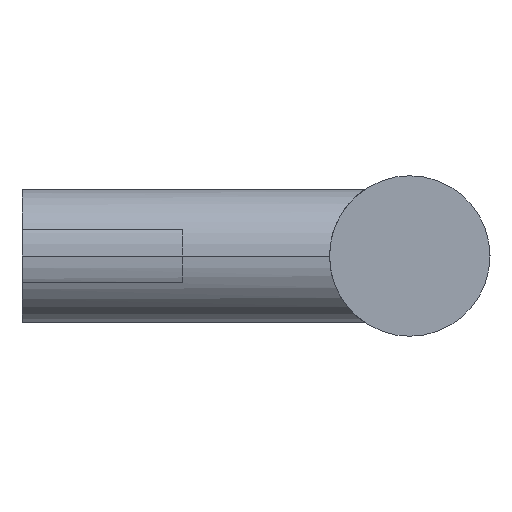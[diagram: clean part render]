
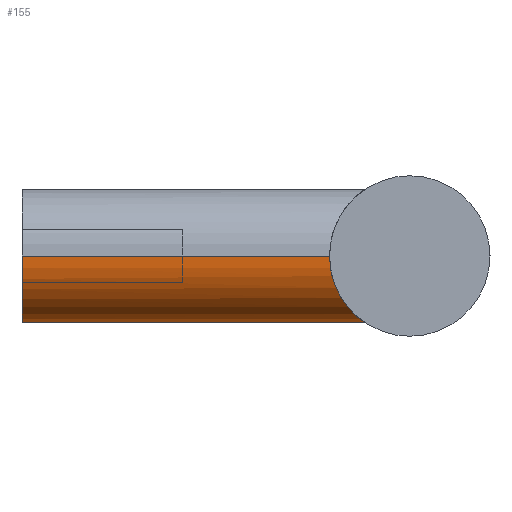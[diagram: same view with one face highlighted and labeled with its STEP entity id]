
A CAD part, left-side view. The second image highlights one B-rep face of the part: STEP entity #155.
In plain terms, the highlighted cylindrical face has radius 5 mm (diameter 10 mm), a partial arc.
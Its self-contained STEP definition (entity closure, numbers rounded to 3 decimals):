
#143 = VERTEX_POINT( '', #361 );
#155 = ADVANCED_FACE( '', ( #375 ), #376, .T. );
#163 = VERTEX_POINT( '', #384 );
#183 = VERTEX_POINT( '', #407 );
#191 = VERTEX_POINT( '', #415 );
#193 = EDGE_CURVE( '', #183, #191, #417, .T. );
#201 = EDGE_CURVE( '', #143, #163, #427, .T. );
#275 = EDGE_CURVE( '', #143, #191, #507, .T. );
#287 = EDGE_CURVE( '', #183, #163, #519, .T. );
#361 = CARTESIAN_POINT( '', ( 5., 0., 0. ) );
#375 = FACE_OUTER_BOUND( '', #648, .T. );
#376 = CYLINDRICAL_SURFACE( '', #649, 5. );
#384 = CARTESIAN_POINT( '', ( 5., -23., 0. ) );
#407 = CARTESIAN_POINT( '', ( -5., -23., 0. ) );
#415 = CARTESIAN_POINT( '', ( -5., 0., 0. ) );
#417 = LINE( '', #720, #721 );
#427 = LINE( '', #734, #735 );
#507 = CIRCLE( '', #957, 5. );
#519 = B_SPLINE_CURVE_WITH_KNOTS( '', 3, ( #971, #972, #973, #974, #975, #976, #977, #978, #979, #980, #981, #982, #983, #984, #985, #986, #987, #988, #989, #990, #991, #992, #993, #994, #995, #996, #997, #998, #999, #1000, #1001, #1002, #1003, #1004 ), .UNSPECIFIED., .F., .F., ( 4, 2, 2, 2, 2, 2, 2, 2, 2, 2, 2, 2, 2, 2, 2, 2, 4 ), ( 8.161, 9.16, 10.159, 11.158, 12.157, 13.198, 14.239, 15.28, 16.322, 17.363, 18.404, 19.446, 20.487, 21.486, 22.485, 23.484, 24.483 ), .UNSPECIFIED. );
#648 = EDGE_LOOP( '', ( #1102, #1103, #1104, #1105 ) );
#649 = AXIS2_PLACEMENT_3D( '', #1106, #1107, #1108 );
#720 = CARTESIAN_POINT( '', ( -5., 0., 0. ) );
#721 = VECTOR( '', #1152, 1. );
#734 = CARTESIAN_POINT( '', ( 5., 0., 0. ) );
#735 = VECTOR( '', #1170, 1. );
#957 = AXIS2_PLACEMENT_3D( '', #1230, #1231, #1232 );
#971 = CARTESIAN_POINT( '', ( -5., -23., 0. ) );
#972 = CARTESIAN_POINT( '', ( -5., -23., -0.333 ) );
#973 = CARTESIAN_POINT( '', ( -4.966, -23.028, -0.672 ) );
#974 = CARTESIAN_POINT( '', ( -4.83, -23.141, -1.335 ) );
#975 = CARTESIAN_POINT( '', ( -4.728, -23.225, -1.659 ) );
#976 = CARTESIAN_POINT( '', ( -4.467, -23.437, -2.272 ) );
#977 = CARTESIAN_POINT( '', ( -4.306, -23.566, -2.561 ) );
#978 = CARTESIAN_POINT( '', ( -3.946, -23.847, -3.088 ) );
#979 = CARTESIAN_POINT( '', ( -3.745, -24., -3.326 ) );
#980 = CARTESIAN_POINT( '', ( -3.317, -24.311, -3.754 ) );
#981 = CARTESIAN_POINT( '', ( -3.073, -24.483, -3.957 ) );
#982 = CARTESIAN_POINT( '', ( -2.544, -24.825, -4.316 ) );
#983 = CARTESIAN_POINT( '', ( -2.259, -24.995, -4.472 ) );
#984 = CARTESIAN_POINT( '', ( -1.659, -25.301, -4.728 ) );
#985 = CARTESIAN_POINT( '', ( -1.343, -25.436, -4.828 ) );
#986 = CARTESIAN_POINT( '', ( -0.687, -25.627, -4.964 ) );
#987 = CARTESIAN_POINT( '', ( -0.347, -25.683, -5. ) );
#988 = CARTESIAN_POINT( '', ( 0.347, -25.683, -5. ) );
#989 = CARTESIAN_POINT( '', ( 0.687, -25.627, -4.964 ) );
#990 = CARTESIAN_POINT( '', ( 1.343, -25.436, -4.828 ) );
#991 = CARTESIAN_POINT( '', ( 1.659, -25.301, -4.728 ) );
#992 = CARTESIAN_POINT( '', ( 2.259, -24.995, -4.472 ) );
#993 = CARTESIAN_POINT( '', ( 2.544, -24.825, -4.316 ) );
#994 = CARTESIAN_POINT( '', ( 3.073, -24.483, -3.957 ) );
#995 = CARTESIAN_POINT( '', ( 3.317, -24.311, -3.754 ) );
#996 = CARTESIAN_POINT( '', ( 3.745, -24., -3.326 ) );
#997 = CARTESIAN_POINT( '', ( 3.946, -23.847, -3.088 ) );
#998 = CARTESIAN_POINT( '', ( 4.306, -23.566, -2.561 ) );
#999 = CARTESIAN_POINT( '', ( 4.467, -23.437, -2.272 ) );
#1000 = CARTESIAN_POINT( '', ( 4.728, -23.225, -1.659 ) );
#1001 = CARTESIAN_POINT( '', ( 4.83, -23.141, -1.335 ) );
#1002 = CARTESIAN_POINT( '', ( 4.966, -23.028, -0.672 ) );
#1003 = CARTESIAN_POINT( '', ( 5., -23., -0.333 ) );
#1004 = CARTESIAN_POINT( '', ( 5., -23., 0. ) );
#1102 = ORIENTED_EDGE( '', *, *, #201, .T. );
#1103 = ORIENTED_EDGE( '', *, *, #287, .F. );
#1104 = ORIENTED_EDGE( '', *, *, #193, .T. );
#1105 = ORIENTED_EDGE( '', *, *, #275, .F. );
#1106 = CARTESIAN_POINT( '', ( 0., 0., 0. ) );
#1107 = DIRECTION( '', ( 0., 1., 0. ) );
#1108 = DIRECTION( '', ( 1., 0., 0. ) );
#1152 = DIRECTION( '', ( 0., 1., 0. ) );
#1170 = DIRECTION( '', ( 0., -1., 0. ) );
#1230 = CARTESIAN_POINT( '', ( 0., 0., 0. ) );
#1231 = DIRECTION( '', ( 0., 1., 0. ) );
#1232 = DIRECTION( '', ( 1., 0., 0. ) );
